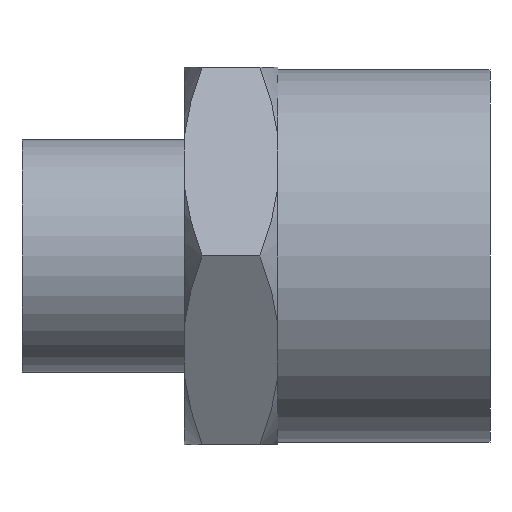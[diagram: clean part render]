
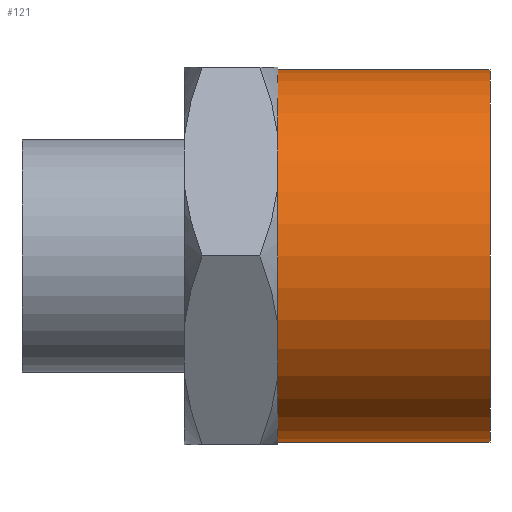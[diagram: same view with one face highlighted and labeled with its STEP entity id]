
A CAD part, left-side view. The second image highlights one B-rep face of the part: STEP entity #121.
In plain terms, the highlighted cylindrical face has radius 10.33 mm (diameter 20.66 mm), a partial arc.
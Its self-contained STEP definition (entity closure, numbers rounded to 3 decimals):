
#31 = DIRECTION ( 'NONE',  ( 0., 0., 1. ) ) ;
#52 = VERTEX_POINT ( 'NONE', #100 ) ;
#69 = DIRECTION ( 'NONE',  ( 0., 1., 0. ) ) ;
#100 = CARTESIAN_POINT ( 'NONE',  ( 0., 0., 10.33 ) ) ;
#110 = ORIENTED_EDGE ( 'NONE', *, *, #276, .F. ) ;
#121 = ADVANCED_FACE ( 'NONE', ( #136 ), #361, .T. ) ;
#136 = FACE_OUTER_BOUND ( 'NONE', #195, .T. ) ;
#173 = CARTESIAN_POINT ( 'NONE',  ( 0., -11.76, 10.33 ) ) ;
#195 = EDGE_LOOP ( 'NONE', ( #110, #590, #771, #660 ) ) ;
#196 = AXIS2_PLACEMENT_3D ( 'NONE', #524, #604, #31 ) ;
#233 = CIRCLE ( 'NONE', #433, 10.33 ) ;
#250 = VECTOR ( 'NONE', #69, 1000. ) ;
#276 = EDGE_CURVE ( 'NONE', #391, #1004, #610, .T. ) ;
#361 = CYLINDRICAL_SURFACE ( 'NONE', #196, 10.33 ) ;
#364 = EDGE_CURVE ( 'NONE', #663, #391, #233, .T. ) ;
#378 = EDGE_CURVE ( 'NONE', #663, #52, #1045, .T. ) ;
#391 = VERTEX_POINT ( 'NONE', #922 ) ;
#433 = AXIS2_PLACEMENT_3D ( 'NONE', #545, #719, #626 ) ;
#435 = CARTESIAN_POINT ( 'NONE',  ( 0., 0., 0. ) ) ;
#524 = CARTESIAN_POINT ( 'NONE',  ( 0., -11.76, 0. ) ) ;
#530 = EDGE_CURVE ( 'NONE', #52, #1004, #547, .T. ) ;
#545 = CARTESIAN_POINT ( 'NONE',  ( 0., -11.76, 0. ) ) ;
#547 = CIRCLE ( 'NONE', #591, 10.33 ) ;
#572 = CARTESIAN_POINT ( 'NONE',  ( 0., 0., -10.33 ) ) ;
#590 = ORIENTED_EDGE ( 'NONE', *, *, #364, .F. ) ;
#591 = AXIS2_PLACEMENT_3D ( 'NONE', #435, #853, #1005 ) ;
#604 = DIRECTION ( 'NONE',  ( 0., 1., 0. ) ) ;
#610 = LINE ( 'NONE', #728, #912 ) ;
#626 = DIRECTION ( 'NONE',  ( 0., 0., -1. ) ) ;
#660 = ORIENTED_EDGE ( 'NONE', *, *, #530, .T. ) ;
#663 = VERTEX_POINT ( 'NONE', #173 ) ;
#719 = DIRECTION ( 'NONE',  ( 0., -1., 0. ) ) ;
#724 = CARTESIAN_POINT ( 'NONE',  ( 0., -11.76, 10.33 ) ) ;
#728 = CARTESIAN_POINT ( 'NONE',  ( 0., -11.76, -10.33 ) ) ;
#771 = ORIENTED_EDGE ( 'NONE', *, *, #378, .T. ) ;
#853 = DIRECTION ( 'NONE',  ( 0., -1., 0. ) ) ;
#907 = DIRECTION ( 'NONE',  ( 0., 1., 0. ) ) ;
#912 = VECTOR ( 'NONE', #907, 1000. ) ;
#922 = CARTESIAN_POINT ( 'NONE',  ( 0., -11.76, -10.33 ) ) ;
#1004 = VERTEX_POINT ( 'NONE', #572 ) ;
#1005 = DIRECTION ( 'NONE',  ( 0., 0., 1. ) ) ;
#1045 = LINE ( 'NONE', #724, #250 ) ;
